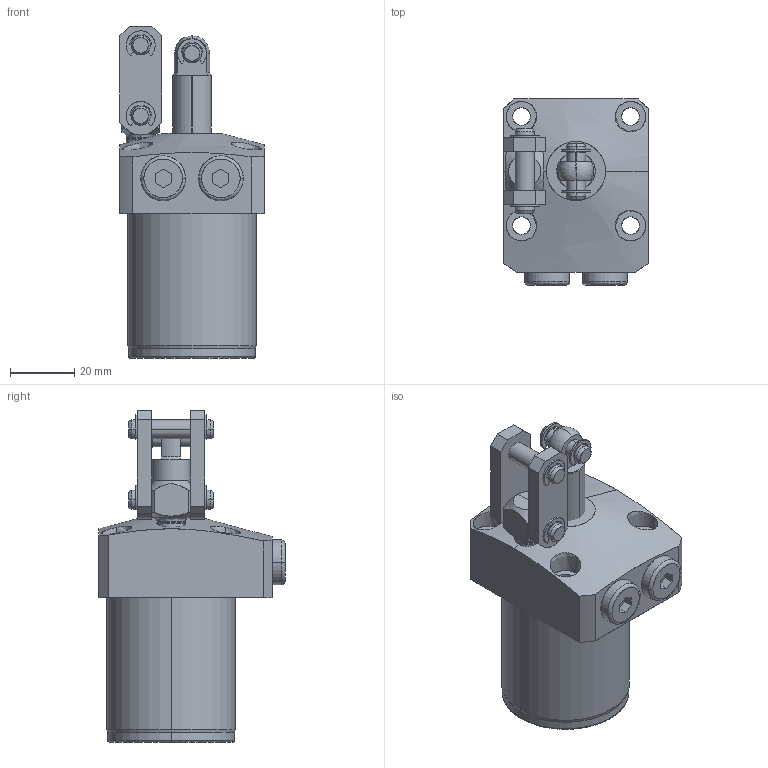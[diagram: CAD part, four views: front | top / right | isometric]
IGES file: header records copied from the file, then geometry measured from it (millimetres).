
Start section: SolidWorks IGES file using analytic representation for surfaces
Global section: file name: C:\Documents and Settings\nijil\My Documents\Clasys1\LQ Series\40\0401-0093.IGS; native system: SolidWorks 2010; preprocessor: SolidWorks 2010; author: nijil; date: 130723.124900; units: millimetre
Bounding box: 45 x 58 x 103.5 mm (x, y, z)
Surface area: 22200.1 mm2 (no closed solid volume)
Topology: 0 solids, 0 shells, 268 faces, 4310 edges, 4303 vertices
Faces by surface type: revolution 148, bspline 120
